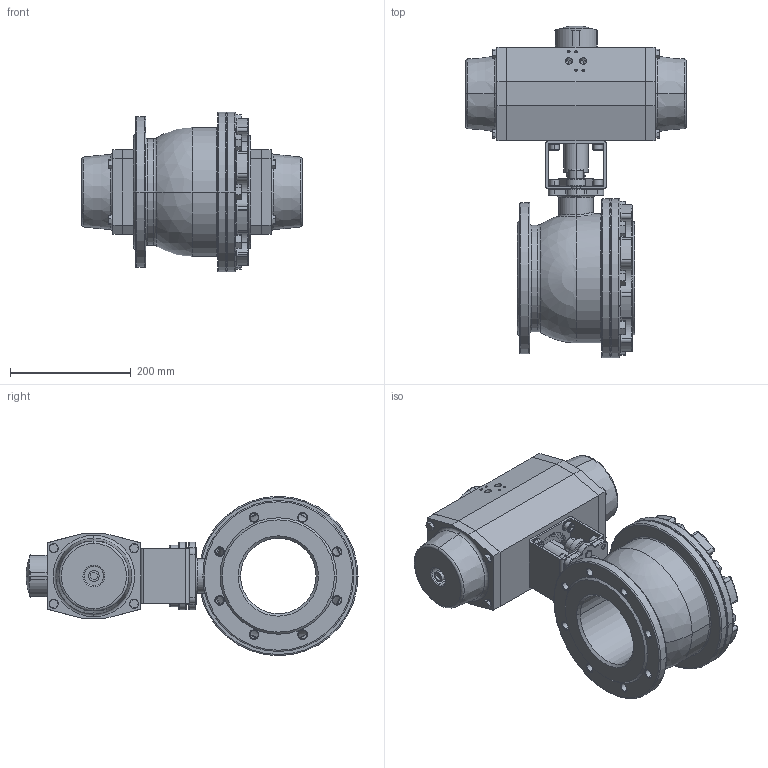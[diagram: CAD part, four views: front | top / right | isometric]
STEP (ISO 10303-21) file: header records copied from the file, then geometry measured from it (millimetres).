
FILE_DESCRIPTION (( 'STEP AP214' ), '1' );
FILE_NAME ('S15F DN125 + AP5.STEP', '2012-04-24T09:05:28', ( 'Jan' ), ( '' ), 'SwSTEP 2.0', 'SolidWorks 2011', '' );
FILE_SCHEMA (( 'AUTOMOTIVE_DESIGN' ));
Length unit declared in the file: millimetre
Products named in the file (8): DIN 912 M10 x 16 --- 16N_DIN 912 M10 x 16 --- 16N; Spring washer DIN 128 - A10_Spring washer DIN 128 - A10; AP5_Default<As Machined>; Adapter_YA2220D4070K80; Brugstuk_YB10080F10F10-4; DIN 912 M16 x 30 --- 30N_DIN 912 M16 x 30 --- 30N; S15F KK DN125 PN16; S15F DN125 + AP5
Assembly tree (22 placements, depth 2):
  S15F DN125 + AP5
    Spring washer DIN 128 - A10_Spring washer DIN 128 - A10  x8
    Adapter_YA2220D4070K80
    DIN 912 M16 x 30 --- 30N_DIN 912 M16 x 30 --- 30N  x2
    DIN 912 M10 x 16 --- 16N_DIN 912 M10 x 16 --- 16N  x8
    S15F KK DN125 PN16
    Brugstuk_YB10080F10F10-4
    AP5_Default<As Machined>
Bounding box: 366 x 549.9 x 264 mm (x, y, z)
Volume: 11951831.5 mm3; surface area: 745287.2 mm2
Topology: 31 solids, 31 shells, 1182 faces, 2759 edges, 1630 vertices
Faces by surface type: plane 488, cylinder 325, torus 212, cone 136, bspline 17, sphere 4
Entity records: 28755 total; most frequent: CARTESIAN_POINT 5418, DIRECTION 4921, ORIENTED_EDGE 4182, EDGE_CURVE 2091, AXIS2_PLACEMENT_3D 1939, VERTEX_POINT 1280, VECTOR 1043, LINE 1043
